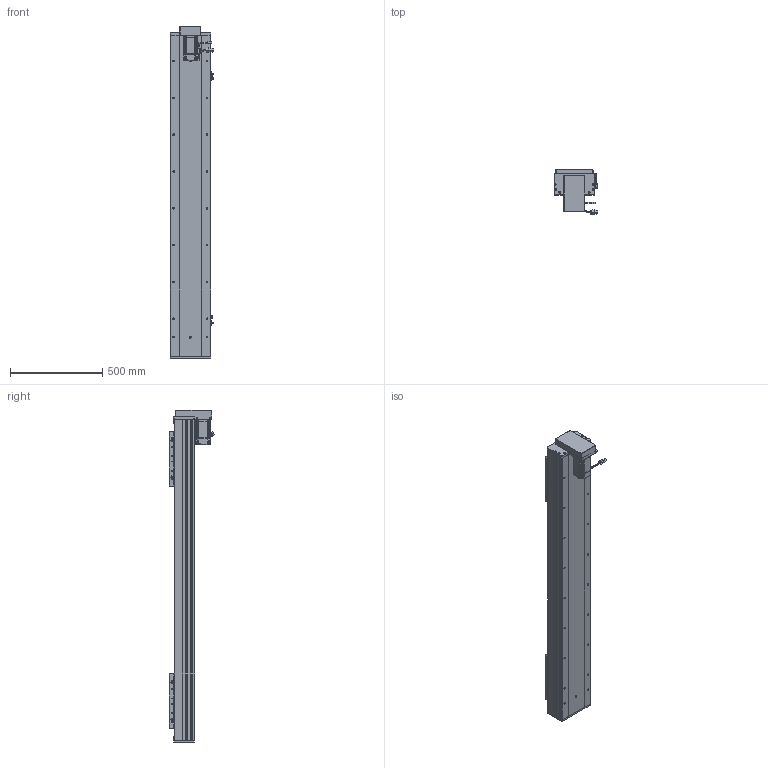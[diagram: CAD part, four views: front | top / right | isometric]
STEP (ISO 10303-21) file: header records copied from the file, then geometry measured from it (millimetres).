
FILE_DESCRIPTION (( 'STEP AP203' ), '1' );
FILE_NAME ('RY220F-L2525-800-BK-邧嶺.SLDASM_1300.step', '2022-08-06T08:08:03', ( '' ), ( '' ), 'SwSTEP 2.0', 'SolidWorks 2016', '' );
FILE_SCHEMA (( 'CONFIG_CONTROL_DESIGN' ));
Length unit declared in the file: millimetre
Products named in the file (15): RY220F-詩湍揤踡輸; RY220F蛌殏菁釱-800-邧嶺_1300; RY220F-蛌殏奻裔啣-800_1300; RY220F-祥凄詩湍-蛌殏-800_1300; 覜茼ん672; RY220F綴裔啣; RY220狟殏萇儂欶; RY220F-L2525-800-BK-邧嶺.SLDASM_1300; RY220F-672覜茼んえ; RY220狟殏萇儂假蚾啣; RY220F-滅鳥奻裔; 侐源滅袉蝶; RY220F臏賑釱25-32佪裝; 滅袉蝶18-24; 怢湛750W_ECMA-CX0807ES
Assembly tree (24 placements, depth 2):
  RY220F-L2525-800-BK-邧嶺.SLDASM_1300
    RY220F蛌殏菁釱-800-邧嶺_1300
    RY220F-蛌殏奻裔啣-800_1300  x2
    怢湛750W_ECMA-CX0807ES
    RY220F臏賑釱25-32佪裝  x2
    RY220F-滅鳥奻裔  x2
    滅袉蝶18-24  x3
    RY220F綴裔啣
    RY220F-祥凄詩湍-蛌殏-800_1300
    RY220F-詩湍揤踡輸  x2
    覜茼ん672  x3
    RY220F-672覜茼んえ  x2
    侐源滅袉蝶  x2
    RY220狟殏萇儂假蚾啣
    RY220狟殏萇儂欶
Bounding box: 237.27 x 247.24 x 1803 mm (x, y, z)
Volume: 16576722.6 mm3; surface area: 4318792.5 mm2
Topology: 25 solids, 25 shells, 2819 faces, 7654 edges, 4723 vertices
Faces by surface type: cylinder 1258, plane 1062, cone 428, bspline 45, sphere 16, torus 10
Entity records: 69997 total; most frequent: CARTESIAN_POINT 18877, ORIENTED_EDGE 10322, DIRECTION 10061, EDGE_CURVE 5161, AXIS2_PLACEMENT_3D 3574, VERTEX_POINT 3339, VECTOR 2913, LINE 2913
